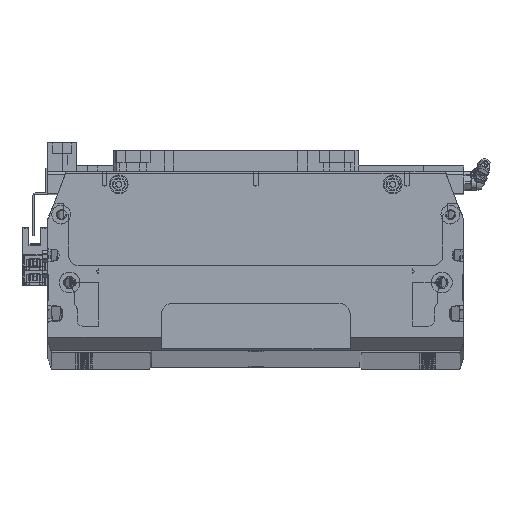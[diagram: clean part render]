
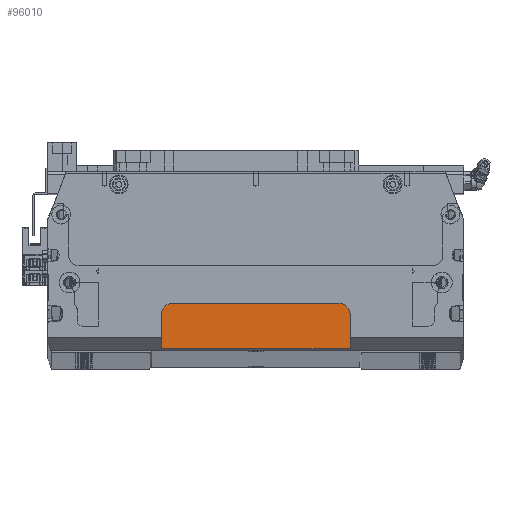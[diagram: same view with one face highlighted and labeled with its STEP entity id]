
A CAD part, top view. The second image highlights one B-rep face of the part: STEP entity #96010.
In plain terms, the highlighted planar face has unit normal (0, 0, 1) as drawn and (0, 1, 0) by its records, which use the part's own axes.
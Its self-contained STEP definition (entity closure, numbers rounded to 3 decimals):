
#21547 = CARTESIAN_POINT ( 'NONE',  ( 110., 8., 57.25 ) ) ;
#28774 = VECTOR ( 'NONE', #453130, 1000. ) ;
#33726 = PLANE ( 'NONE',  #48329 ) ;
#42943 = ORIENTED_EDGE ( 'NONE', *, *, #256865, .T. ) ;
#47590 = CARTESIAN_POINT ( 'NONE',  ( 44., 8., 33.25 ) ) ;
#48329 = AXIS2_PLACEMENT_3D ( 'NONE', #411980, #146133, #144503 ) ;
#73268 = VECTOR ( 'NONE', #377468, 1000. ) ;
#82674 = EDGE_CURVE ( 'NONE', #456926, #396151, #227396, .T. ) ;
#88334 = CARTESIAN_POINT ( 'NONE',  ( 50., 8., 58.25 ) ) ;
#96010 = ADVANCED_FACE ( 'NONE', ( #305337 ), #33726, .F. ) ;
#129073 = AXIS2_PLACEMENT_3D ( 'NONE', #360475, #433117, #319247 ) ;
#135031 = VERTEX_POINT ( 'NONE', #405204 ) ;
#136797 = CARTESIAN_POINT ( 'NONE',  ( -44., 8., 33.25 ) ) ;
#139840 = DIRECTION ( 'NONE',  ( 0., 1., 0. ) ) ;
#144503 = DIRECTION ( 'NONE',  ( 0., 0., -1. ) ) ;
#146133 = DIRECTION ( 'NONE',  ( 0., -1., 0. ) ) ;
#149352 = ORIENTED_EDGE ( 'NONE', *, *, #463555, .T. ) ;
#150153 = CIRCLE ( 'NONE', #129073, 6. ) ;
#158693 = EDGE_CURVE ( 'NONE', #456926, #135031, #268477, .T. ) ;
#170036 = VERTEX_POINT ( 'NONE', #47590 ) ;
#171577 = ORIENTED_EDGE ( 'NONE', *, *, #158693, .T. ) ;
#177668 = ORIENTED_EDGE ( 'NONE', *, *, #82674, .F. ) ;
#183160 = CARTESIAN_POINT ( 'NONE',  ( 50., 8., 57.25 ) ) ;
#184072 = CARTESIAN_POINT ( 'NONE',  ( -50., 8., 33.25 ) ) ;
#185690 = LINE ( 'NONE', #418652, #73268 ) ;
#199148 = DIRECTION ( 'NONE',  ( 0., 0., -1. ) ) ;
#212271 = LINE ( 'NONE', #184072, #28774 ) ;
#227396 = LINE ( 'NONE', #21547, #321769 ) ;
#231660 = ORIENTED_EDGE ( 'NONE', *, *, #427529, .T. ) ;
#238292 = AXIS2_PLACEMENT_3D ( 'NONE', #440462, #139840, #442089 ) ;
#239395 = CIRCLE ( 'NONE', #238292, 6. ) ;
#256865 = EDGE_CURVE ( 'NONE', #473530, #396151, #185690, .T. ) ;
#265929 = ORIENTED_EDGE ( 'NONE', *, *, #485447, .T. ) ;
#268477 = LINE ( 'NONE', #88334, #404506 ) ;
#305337 = FACE_OUTER_BOUND ( 'NONE', #309085, .T. ) ;
#305448 = VERTEX_POINT ( 'NONE', #136797 ) ;
#309085 = EDGE_LOOP ( 'NONE', ( #171577, #149352, #231660, #265929, #42943, #177668 ) ) ;
#317682 = CARTESIAN_POINT ( 'NONE',  ( -50., 8., 57.25 ) ) ;
#319247 = DIRECTION ( 'NONE',  ( 0., 0., -1. ) ) ;
#321769 = VECTOR ( 'NONE', #360197, 1000. ) ;
#335620 = CARTESIAN_POINT ( 'NONE',  ( -50., 8., 39.25 ) ) ;
#360197 = DIRECTION ( 'NONE',  ( -1., 0., 0. ) ) ;
#360475 = CARTESIAN_POINT ( 'NONE',  ( 44., 8., 39.25 ) ) ;
#377468 = DIRECTION ( 'NONE',  ( 0., 0., 1. ) ) ;
#396151 = VERTEX_POINT ( 'NONE', #317682 ) ;
#404506 = VECTOR ( 'NONE', #199148, 1000. ) ;
#405204 = CARTESIAN_POINT ( 'NONE',  ( 50., 8., 39.25 ) ) ;
#411980 = CARTESIAN_POINT ( 'NONE',  ( 0., 8., 0. ) ) ;
#418652 = CARTESIAN_POINT ( 'NONE',  ( -50., 8., 58.25 ) ) ;
#427529 = EDGE_CURVE ( 'NONE', #170036, #305448, #212271, .T. ) ;
#433117 = DIRECTION ( 'NONE',  ( 0., 1., 0. ) ) ;
#440462 = CARTESIAN_POINT ( 'NONE',  ( -44., 8., 39.25 ) ) ;
#442089 = DIRECTION ( 'NONE',  ( 0., 0., -1. ) ) ;
#453130 = DIRECTION ( 'NONE',  ( -1., 0., 0. ) ) ;
#456926 = VERTEX_POINT ( 'NONE', #183160 ) ;
#463555 = EDGE_CURVE ( 'NONE', #135031, #170036, #150153, .T. ) ;
#473530 = VERTEX_POINT ( 'NONE', #335620 ) ;
#485447 = EDGE_CURVE ( 'NONE', #305448, #473530, #239395, .T. ) ;
